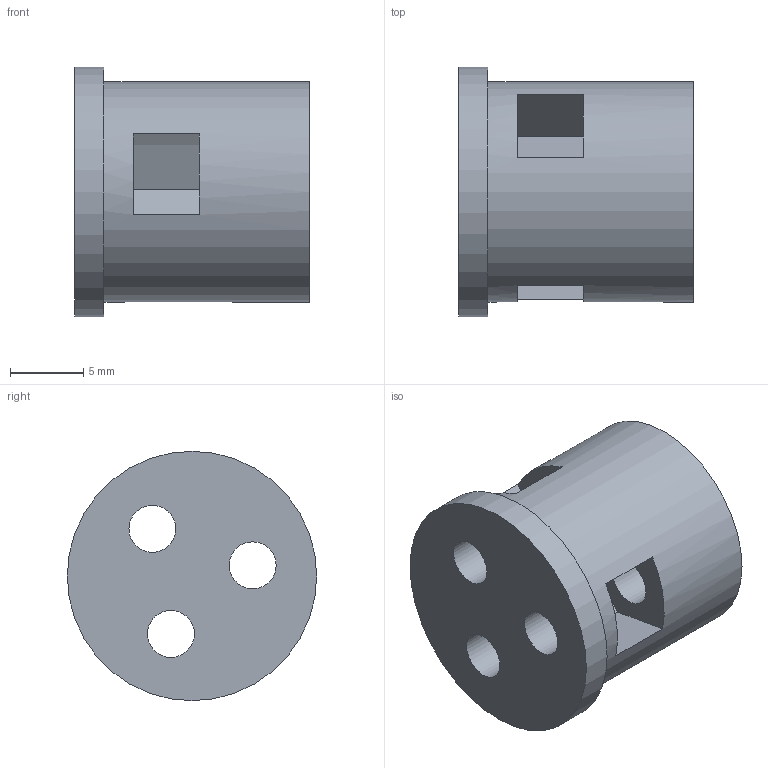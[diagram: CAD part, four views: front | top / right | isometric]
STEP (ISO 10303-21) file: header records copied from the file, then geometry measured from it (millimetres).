
FILE_DESCRIPTION(/* description */ (''),/* implementation_level */ '2;1');
FILE_NAME(/* name */ '4-19-2 Wheel connector.step',/* time_stamp */ '2025-05-10T22:18:03+02:00',/* author */ (''),/* organization */ (''),/* preprocessor_version */ 'ST-DEVELOPER v20.1',/* originating_system */ 'Autodesk Translation Framework v14.4.0.0',/* authorisation */ '');
FILE_SCHEMA (('AUTOMOTIVE_DESIGN { 1 0 10303 214 3 1 1 }'));
Length unit declared in the file: millimetre
Products named in the file (1): Wheel connector
Bounding box: 16 x 17 x 17 mm (x, y, z)
Volume: 2231.2 mm3; surface area: 1785.1 mm2
Topology: 1 solids, 1 shells, 29 faces, 69 edges, 46 vertices
Faces by surface type: plane 21, cylinder 8
Full cylindrical faces by diameter (mm): 3.2 x6, 15 x1, 17 x1
Entity records: 909 total; most frequent: DIRECTION 151, CARTESIAN_POINT 145, ORIENTED_EDGE 138, EDGE_CURVE 69, AXIS2_PLACEMENT_3D 52, LINE 47, VECTOR 47, VERTEX_POINT 46
